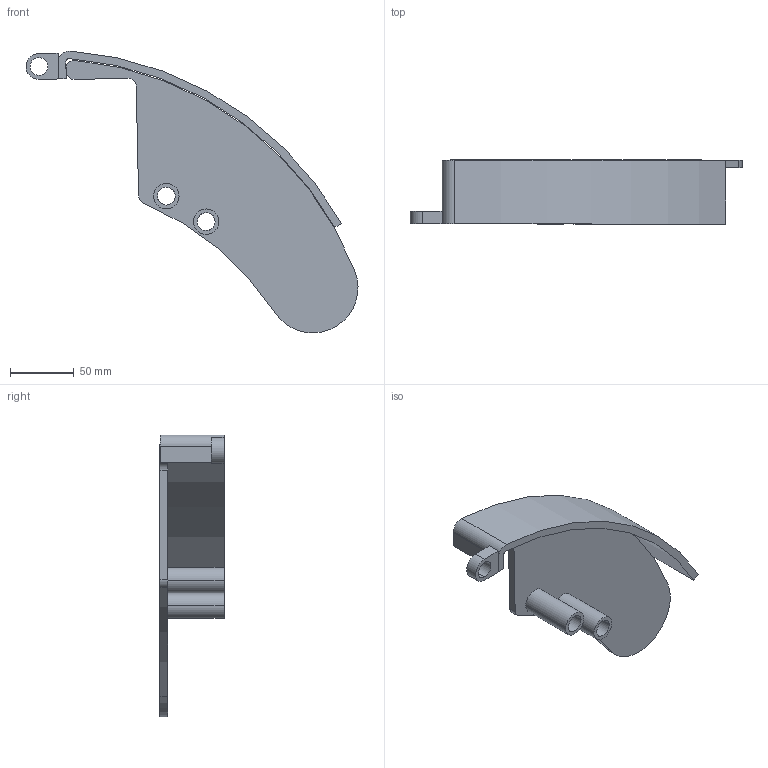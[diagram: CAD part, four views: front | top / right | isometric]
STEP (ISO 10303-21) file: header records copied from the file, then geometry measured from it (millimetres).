
FILE_DESCRIPTION (( 'STEP AP214' ), '1' );
FILE_NAME ('YYDK-500-0010 油管保护罩1（500T）.step', '2024-11-20T05:46:34', ( '' ), ( '' ), 'SwSTEP 2.0', 'SolidWorks 2020', '' );
FILE_SCHEMA (( 'AUTOMOTIVE_DESIGN' ));
Length unit declared in the file: millimetre
Products named in the file (1): YYDK-500-0010 油管保护罩1（500T）
Bounding box: 260.89 x 50.44 x 221.47 mm (x, y, z)
Volume: 212688.8 mm3; surface area: 85906.4 mm2
Topology: 5 solids, 5 shells, 46 faces, 108 edges, 72 vertices
Faces by surface type: cylinder 26, plane 20
Entity records: 1940 total; most frequent: DIRECTION 254, CARTESIAN_POINT 227, ORIENTED_EDGE 216, EDGE_CURVE 108, AXIS2_PLACEMENT_3D 99, VERTEX_POINT 72, LINE 56, EDGE_LOOP 56
